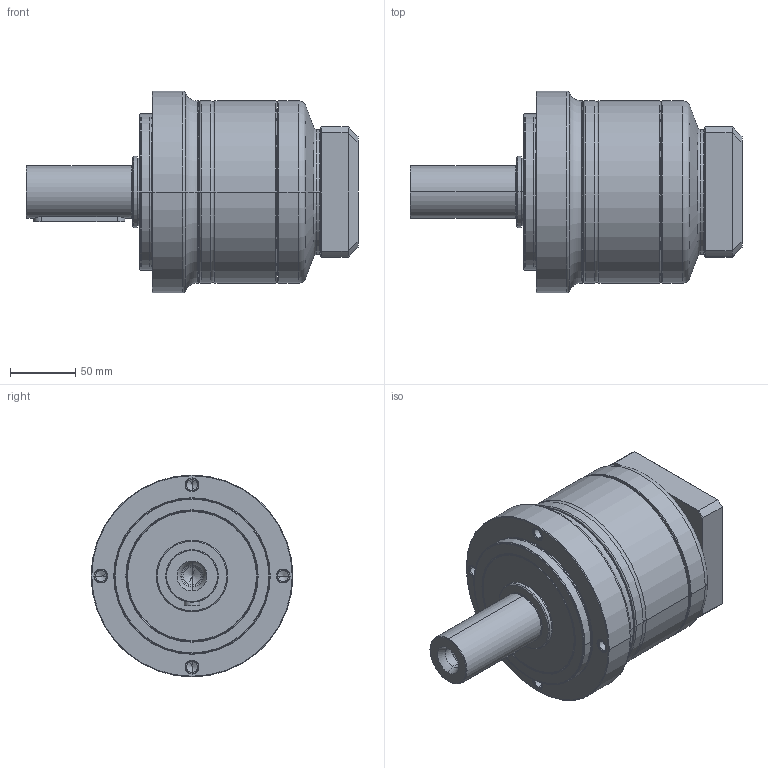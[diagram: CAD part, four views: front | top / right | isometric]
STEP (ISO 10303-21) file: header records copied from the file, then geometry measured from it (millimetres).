
FILE_DESCRIPTION((''),'2;1');
FILE_NAME('PE2-155_1ST_24-P0411500101_ASM','2016-04-26T',('d00435'),(''),'PRO/ENGINEER BY PARAMETRIC TECHNOLOGY CORPORATION, 2008410','PRO/ENGINEER BY PARAMETRIC TECHNOLOGY CORPORATION, 2008410','');
FILE_SCHEMA(('CONFIG_CONTROL_DESIGN'));
Length unit declared in the file: millimetre
Products named in the file (9): P1323510001; P0250500001; P1324500101; P0350501001; P0941501001; P0503500008; P0411500101; P1702500001; PE2-155_1ST_24-P0411500101_ASM
Assembly tree (8 placements, depth 2):
  PE2-155_1ST_24-P0411500101_ASM
    P1323510001
    P0250500001
    P1324500101
    P0350501001
    P0941501001
    P0503500008
    P0411500101
    P1702500001
Bounding box: 255 x 155 x 155 mm (x, y, z)
Volume: 2132154.8 mm3; surface area: 301302.3 mm2
Topology: 8 solids, 22 shells, 524 faces, 1171 edges, 692 vertices
Faces by surface type: cylinder 166, cone 144, torus 102, plane 96, bspline 16
Entity records: 19273 total; most frequent: CARTESIAN_POINT 7293, DIRECTION 2761, ORIENTED_EDGE 2214, AXIS2_PLACEMENT_3D 1194, EDGE_CURVE 1135, VERTEX_POINT 692, CIRCLE 659, EDGE_LOOP 605
